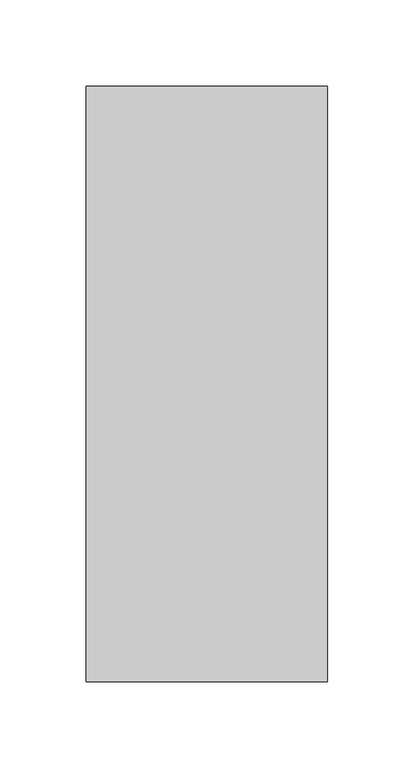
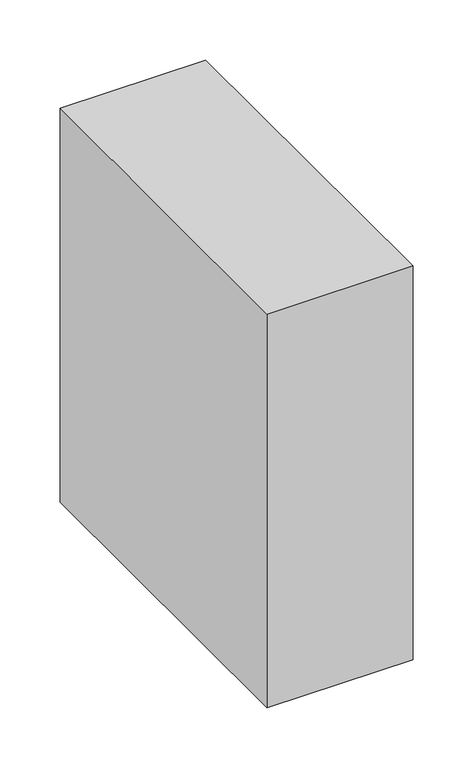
"""IFC4 building model written with IfcOpenShell, lengths in millimetres: proxy geometry."""

from ifc_helpers import new_model, si_unit, frame, origin, place, context, project, spatial, polyline, outline, extrude, source, transform, mapped, element, save


def structural_framing_dde82e8f(model_context):
    return source(origin(), model_context, "Body", "SweptSolid", [
        extrude(outline(polyline([(70.0, -172.5), (-70.0, -172.5), (-70.0, 172.5), (70.0, 172.5), (70.0, -172.5)])), frame((0.0, 0.0, -400.0), z_axis=(0.0, 0.0, 1.0), x_axis=(1.0, 0.0, 0.0)), (0.0, 0.0, 1.0), 400.0),
    ])


if __name__ == "__main__":
    model = new_model("IFC4")
    model_context = context("Model", 3, world=origin())
    ifc_project = project(units=[si_unit("LENGTHUNIT", "METRE", prefix="MILLI")], contexts=[model_context])
    site = spatial("IfcSite", under=ifc_project)
    building = spatial("IfcBuilding", under=site)
    placement = place(None, origin())
    structural_framing_shape = structural_framing_dde82e8f(model_context)
    element("IfcBuildingElementProxy", 1, Name="Structural Framing", at=placement, inside=building, context=model_context, shape_type="MappedRepresentation", body=[
        mapped(structural_framing_shape, transform((0.0, 0.0, 0.0), x_axis=(1.0, 0.0, 0.0), y_axis=(0.0, 1.0, 0.0), z_axis=(0.0, 0.0, 1.0))),
    ])
    save(model, "model.ifc")
